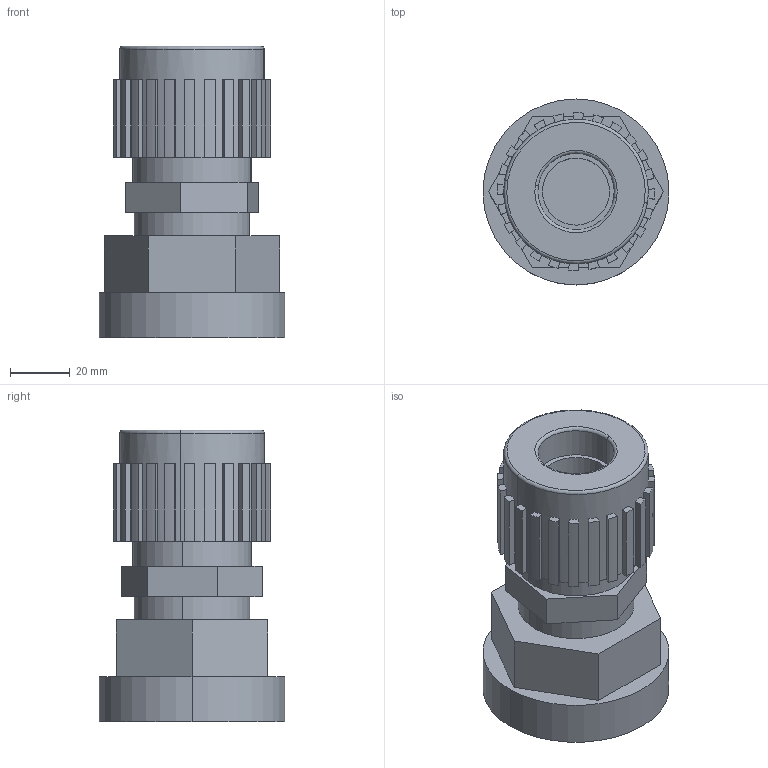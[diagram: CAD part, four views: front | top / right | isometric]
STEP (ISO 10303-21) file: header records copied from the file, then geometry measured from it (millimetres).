
FILE_DESCRIPTION (( 'STEP AP214' ), '1' );
FILE_NAME ('16-s-300-top-out.STEP', '2012-12-03T21:41:23', ( '' ), ( '' ), 'SwSTEP 2.0', 'SolidWorks 2012', '' );
FILE_SCHEMA (( 'AUTOMOTIVE_DESIGN' ));
Length unit declared in the file: inch
Products named in the file (1): 16-s-300-top-out
Bounding box: 62.33 x 62.33 x 97.75 mm (x, y, z)
Volume: 180380.5 mm3; surface area: 29413.5 mm2
Topology: 1 solids, 1 shells, 133 faces, 368 edges, 244 vertices
Faces by surface type: plane 93, cylinder 36, torus 4
Entity records: 4357 total; most frequent: DIRECTION 764, CARTESIAN_POINT 746, ORIENTED_EDGE 736, EDGE_CURVE 368, AXIS2_PLACEMENT_3D 262, VERTEX_POINT 244, VECTOR 240, LINE 240
